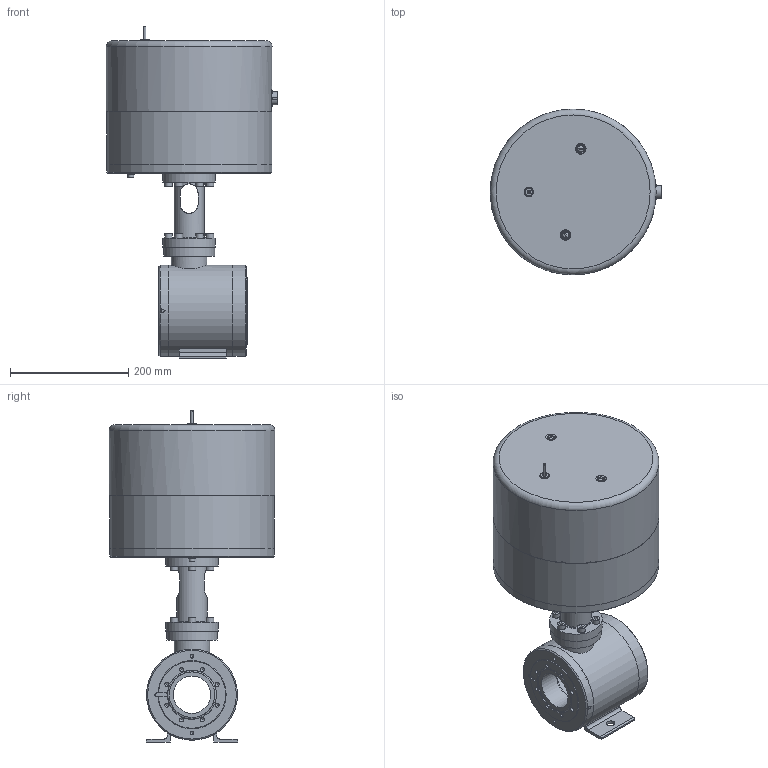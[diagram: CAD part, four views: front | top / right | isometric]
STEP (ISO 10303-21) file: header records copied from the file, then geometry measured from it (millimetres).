
FILE_DESCRIPTION(/* description */ (''),/* implementation_level */ '2;1');
FILE_NAME(/* name */ '1008424024_203.stp',/* time_stamp */ '2014-04-29T10:39:54+02:00',/* author */ (''),/* organization */ (''),/* preprocessor_version */ 'ST-DEVELOPER v11',/* originating_system */ 'SIEMENS PLM Software NX 7.5',/* authorisation */ '');
FILE_SCHEMA (('AP203_CONFIGURATION_CONTROLLED_3D_DESIGN_OF_MECHANICAL_PARTS_AND_ASSEMBLIES_MIM_LF'));
Length unit declared in the file: millimetre
Products named in the file (27): 238683_1.1; 250037_1.1; 238682_1.1; 250040_1.1; 238684_2.1; 253292.1; N-6090-308.1; N-6090-410.1; 227082_2.3; 227083_1.3; 227082_1.3; 251636.1; N-6024-523.1; N-6025-106.1; N-E326-005.3; 67818-01.1; 218189; N-6131-413.1; N-6005-472.1; 250536.2; 253288.1; 411272; 218200.1; 260302.1; 253289.1; 227086.4_MODEL; 415328
Assembly tree (58 placements, depth 3):
  415328
    227086.4_MODEL
      227082_1.3
      227083_1.3
      227082_2.3
    218200.1  x12
    411272
    253288.1
    253289.1
      N-6090-410.1  x6
      N-6090-308.1
      253292.1
    250536.2
    N-6005-472.1
    N-6131-413.1
    218189  x12
    67818-01.1
    N-E326-005.3
    N-6025-106.1  x2
    N-6024-523.1  x4
    251636.1
    260302.1
      238684_2.1
      250040_1.1  x2
      238682_1.1
      250037_1.1
      238683_1.1
Bounding box: 290.07 x 280.4 x 561.5 mm (x, y, z)
Volume: 4592835.6 mm3; surface area: 1233454.8 mm2
Topology: 105 solids, 105 shells, 1254 faces, 2690 edges, 1747 vertices
Faces by surface type: plane 590, cylinder 479, cone 143, torus 24, bspline 10, sphere 8
Full cylindrical faces by diameter (mm): 2 x4, 2.5 x27, 2.55 x2, 3 x4, 3.2 x4, 3.3 x2, 3.5 x12, 4 x4, 4.96 x13, 5 x41, 5.8 x1, 5.9 x4, 6 x63, 6.006 x2, 6.3 x1, 6.4 x13, 6.5 x1, 6.66 x12, 6.7 x12, 6.8 x22, 7.3 x2, 7.45 x1, 8 x36, 8.008 x2, 8.25 x1, 8.6 x12, 8.7 x1, 9.62 x12, 9.728 x1, 9.78 x1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
Entity records: 24073 total; most frequent: CARTESIAN_POINT 4456, DIRECTION 3344, ORIENTED_EDGE 2258, AXIS2_PLACEMENT_3D 1560, EDGE_LOOP 1516, FACE_BOUND 1426, EDGE_CURVE 1129, VERTEX_POINT 1034
